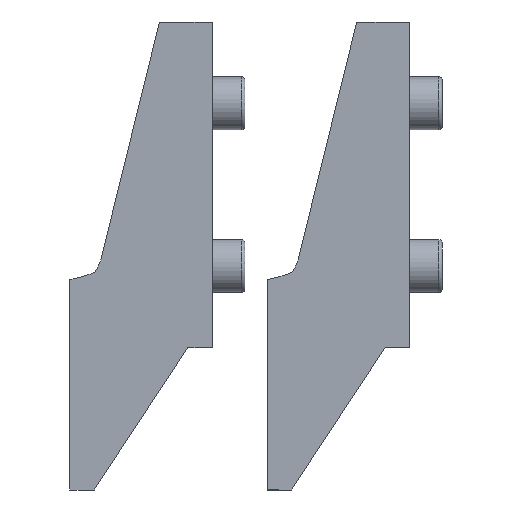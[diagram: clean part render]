
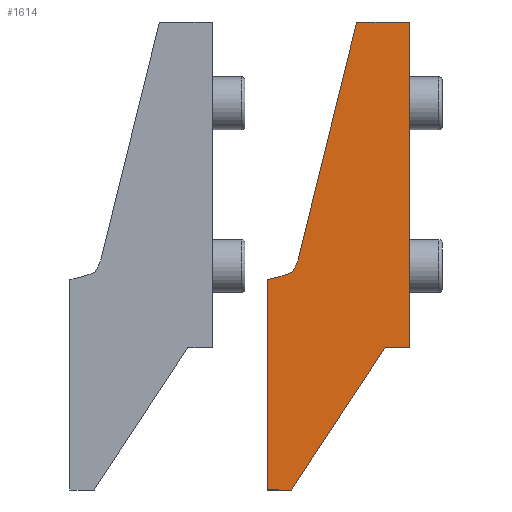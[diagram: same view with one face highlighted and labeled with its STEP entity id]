
A CAD part, front view. The second image highlights one B-rep face of the part: STEP entity #1614.
In plain terms, the highlighted planar face has unit normal (0, -1, 0) as drawn and (0, 1, 0) by its records, which use the part's own axes.
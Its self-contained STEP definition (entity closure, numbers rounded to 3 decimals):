
#14 = EDGE_CURVE ( 'NONE', #749, #1242, #976, .T. ) ;
#19 = LINE ( 'NONE', #1014, #1137 ) ;
#24 = ORIENTED_EDGE ( 'NONE', *, *, #855, .F. ) ;
#54 = DIRECTION ( 'NONE',  ( 1., 0., 0. ) ) ;
#65 = VERTEX_POINT ( 'NONE', #121 ) ;
#91 = ORIENTED_EDGE ( 'NONE', *, *, #761, .F. ) ;
#121 = CARTESIAN_POINT ( 'NONE',  ( -22., 22.5, 115. ) ) ;
#179 = CARTESIAN_POINT ( 'NONE',  ( -6., 22.5, 53.41 ) ) ;
#180 = CARTESIAN_POINT ( 'NONE',  ( 1.053, 22.5, 59. ) ) ;
#183 = ORIENTED_EDGE ( 'NONE', *, *, #1090, .F. ) ;
#194 = CARTESIAN_POINT ( 'NONE',  ( -3.54, 22.5, 52.56 ) ) ;
#212 = EDGE_CURVE ( 'NONE', #469, #563, #1636, .T. ) ;
#214 = VERTEX_POINT ( 'NONE', #179 ) ;
#235 = EDGE_CURVE ( 'NONE', #469, #1651, #707, .T. ) ;
#251 = CARTESIAN_POINT ( 'NONE',  ( 0., 22.5, 0. ) ) ;
#348 = ORIENTED_EDGE ( 'NONE', *, *, #1536, .F. ) ;
#392 = CARTESIAN_POINT ( 'NONE',  ( 1.053, 22.5, 59. ) ) ;
#443 = AXIS2_PLACEMENT_3D ( 'NONE', #180, #1235, #54 ) ;
#454 = CARTESIAN_POINT ( 'NONE',  ( 1.053, 22.5, 35. ) ) ;
#469 = VERTEX_POINT ( 'NONE', #756 ) ;
#541 = DIRECTION ( 'NONE',  ( 0., 0., 1. ) ) ;
#563 = VERTEX_POINT ( 'NONE', #1049 ) ;
#582 = ORIENTED_EDGE ( 'NONE', *, *, #14, .F. ) ;
#588 = CARTESIAN_POINT ( 'NONE',  ( -4.035, 22.5, 52.719 ) ) ;
#623 = LINE ( 'NONE', #764, #1244 ) ;
#644 = B_SPLINE_CURVE_WITH_KNOTS ( 'NONE', 3,
 ( #1501, #1209, #945, #194, #588, #1101, #690, #1220 ),
 .UNSPECIFIED., .F., .F.,
 ( 4, 2, 2, 4 ),
 ( 0., 0.003, 0.005, 0.006 ),
 .UNSPECIFIED. ) ;
#690 = CARTESIAN_POINT ( 'NONE',  ( -5.51, 22.5, 53.232 ) ) ;
#694 = EDGE_LOOP ( 'NONE', ( #1620, #940, #1676, #91, #1624, #24, #582, #348, #183 ) ) ;
#697 = EDGE_CURVE ( 'NONE', #214, #750, #809, .T. ) ;
#707 = LINE ( 'NONE', #1618, #1530 ) ;
#749 = VERTEX_POINT ( 'NONE', #251 ) ;
#750 = VERTEX_POINT ( 'NONE', #1430 ) ;
#756 = CARTESIAN_POINT ( 'NONE',  ( -35., 22.5, 35. ) ) ;
#761 = EDGE_CURVE ( 'NONE', #750, #65, #623, .T. ) ;
#762 = DIRECTION ( 'NONE',  ( 0.549, 0., -0.836 ) ) ;
#764 = CARTESIAN_POINT ( 'NONE',  ( -7.686, 22.5, 56.849 ) ) ;
#809 = CIRCLE ( 'NONE', #1394, 9. ) ;
#814 = VECTOR ( 'NONE', #825, 1000. ) ;
#825 = DIRECTION ( 'NONE',  ( 1., 0., 0. ) ) ;
#855 = EDGE_CURVE ( 'NONE', #1242, #214, #644, .T. ) ;
#876 = LINE ( 'NONE', #1150, #893 ) ;
#893 = VECTOR ( 'NONE', #762, 1000. ) ;
#895 = LINE ( 'NONE', #1426, #997 ) ;
#922 = CARTESIAN_POINT ( 'NONE',  ( 0., 22.5, 51.705 ) ) ;
#940 = ORIENTED_EDGE ( 'NONE', *, *, #235, .T. ) ;
#945 = CARTESIAN_POINT ( 'NONE',  ( -2.042, 22.5, 52.125 ) ) ;
#976 = LINE ( 'NONE', #1398, #1450 ) ;
#997 = VECTOR ( 'NONE', #1579, 1000. ) ;
#1014 = CARTESIAN_POINT ( 'NONE',  ( -29., 22.5, 115. ) ) ;
#1049 = CARTESIAN_POINT ( 'NONE',  ( -29., 22.5, 35. ) ) ;
#1086 = FACE_OUTER_BOUND ( 'NONE', #694, .T. ) ;
#1090 = EDGE_CURVE ( 'NONE', #563, #1231, #876, .T. ) ;
#1101 = CARTESIAN_POINT ( 'NONE',  ( -5.02, 22.5, 53.055 ) ) ;
#1137 = VECTOR ( 'NONE', #1682, 1000. ) ;
#1150 = CARTESIAN_POINT ( 'NONE',  ( -29., 22.5, 35. ) ) ;
#1189 = CARTESIAN_POINT ( 'NONE',  ( -6., 22.5, 0. ) ) ;
#1209 = CARTESIAN_POINT ( 'NONE',  ( -1.028, 22.5, 51.891 ) ) ;
#1220 = CARTESIAN_POINT ( 'NONE',  ( -6., 22.5, 53.41 ) ) ;
#1231 = VERTEX_POINT ( 'NONE', #1189 ) ;
#1235 = DIRECTION ( 'NONE',  ( 0., -1., 0. ) ) ;
#1242 = VERTEX_POINT ( 'NONE', #922 ) ;
#1244 = VECTOR ( 'NONE', #1289, 1000. ) ;
#1289 = DIRECTION ( 'NONE',  ( -0.239, 0., 0.971 ) ) ;
#1348 = CARTESIAN_POINT ( 'NONE',  ( -35., 22.5, 115. ) ) ;
#1355 = PLANE ( 'NONE',  #443 ) ;
#1394 = AXIS2_PLACEMENT_3D ( 'NONE', #392, #1518, #1526 ) ;
#1398 = CARTESIAN_POINT ( 'NONE',  ( 0., 22.5, 59. ) ) ;
#1426 = CARTESIAN_POINT ( 'NONE',  ( 1.053, 22.5, 0. ) ) ;
#1430 = CARTESIAN_POINT ( 'NONE',  ( -7.686, 22.5, 56.849 ) ) ;
#1450 = VECTOR ( 'NONE', #541, 1000. ) ;
#1501 = CARTESIAN_POINT ( 'NONE',  ( 0., 22.5, 51.705 ) ) ;
#1518 = DIRECTION ( 'NONE',  ( 0., 1., 0. ) ) ;
#1526 = DIRECTION ( 'NONE',  ( 1., 0., 0. ) ) ;
#1530 = VECTOR ( 'NONE', #1625, 1000. ) ;
#1536 = EDGE_CURVE ( 'NONE', #1231, #749, #895, .T. ) ;
#1569 = EDGE_CURVE ( 'NONE', #1651, #65, #19, .T. ) ;
#1579 = DIRECTION ( 'NONE',  ( 1., 0., 0. ) ) ;
#1614 = ADVANCED_FACE ( 'NONE', ( #1086 ), #1355, .F. ) ;
#1618 = CARTESIAN_POINT ( 'NONE',  ( -35., 22.5, 0. ) ) ;
#1620 = ORIENTED_EDGE ( 'NONE', *, *, #212, .F. ) ;
#1624 = ORIENTED_EDGE ( 'NONE', *, *, #697, .F. ) ;
#1625 = DIRECTION ( 'NONE',  ( 0., 0., 1. ) ) ;
#1636 = LINE ( 'NONE', #454, #814 ) ;
#1651 = VERTEX_POINT ( 'NONE', #1348 ) ;
#1676 = ORIENTED_EDGE ( 'NONE', *, *, #1569, .T. ) ;
#1682 = DIRECTION ( 'NONE',  ( 1., 0., 0. ) ) ;
